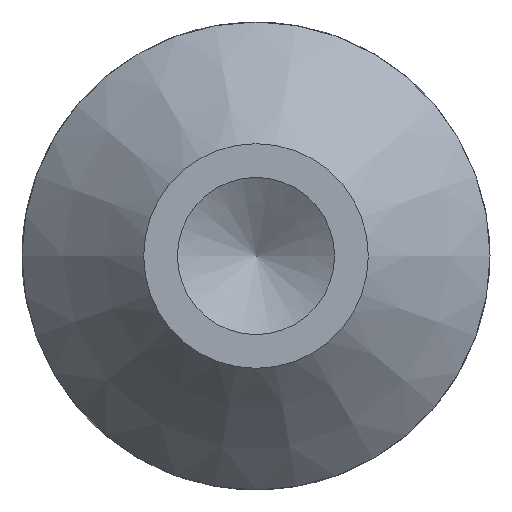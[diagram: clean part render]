
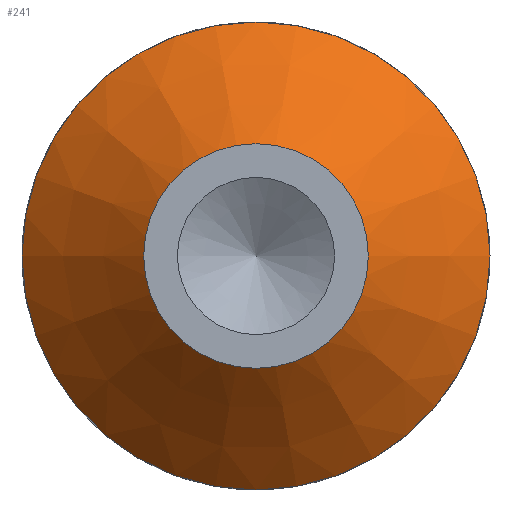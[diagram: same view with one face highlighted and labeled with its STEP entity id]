
A CAD part, left-side view. The second image highlights one B-rep face of the part: STEP entity #241.
In plain terms, the highlighted conical face has half-angle 45 degrees and reference radius 1.175 mm.
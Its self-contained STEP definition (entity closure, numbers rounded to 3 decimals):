
#22=CONICAL_SURFACE($,#274,1.175,45.);
#27=FACE_BOUND($,#92,.T.);
#72=FACE_OUTER_BOUND($,#91,.T.);
#91=EDGE_LOOP($,(#217));
#92=EDGE_LOOP($,(#218));
#103=CIRCLE($,#264,1.588);
#107=CIRCLE($,#272,0.762);
#126=VERTEX_POINT($,#462);
#129=VERTEX_POINT($,#473);
#155=EDGE_CURVE($,#126,#126,#103,.T.);
#159=EDGE_CURVE($,#129,#129,#107,.T.);
#217=ORIENTED_EDGE($,*,*,#155,.F.);
#218=ORIENTED_EDGE($,*,*,#159,.T.);
#241=ADVANCED_FACE($,(#72,#27),#22,.T.);
#264=AXIS2_PLACEMENT_3D($,#463,#326,#327);
#272=AXIS2_PLACEMENT_3D($,#474,#342,#343);
#274=AXIS2_PLACEMENT_3D($,#477,#346,#347);
#326=DIRECTION('center_axis',(1.,0.,0.));
#327=DIRECTION('ref_axis',(0.,1.,0.));
#342=DIRECTION('center_axis',(1.,0.,0.));
#343=DIRECTION('ref_axis',(0.,1.,0.));
#346=DIRECTION('center_axis',(1.,0.,0.));
#347=DIRECTION('ref_axis',(0.,1.,0.));
#462=CARTESIAN_POINT('',(4.788,1.588,0.));
#463=CARTESIAN_POINT('Origin',(4.788,0.,0.));
#473=CARTESIAN_POINT('',(3.962,0.762,0.));
#474=CARTESIAN_POINT('Origin',(3.962,0.,0.));
#477=CARTESIAN_POINT('Origin',(4.375,0.,0.));
